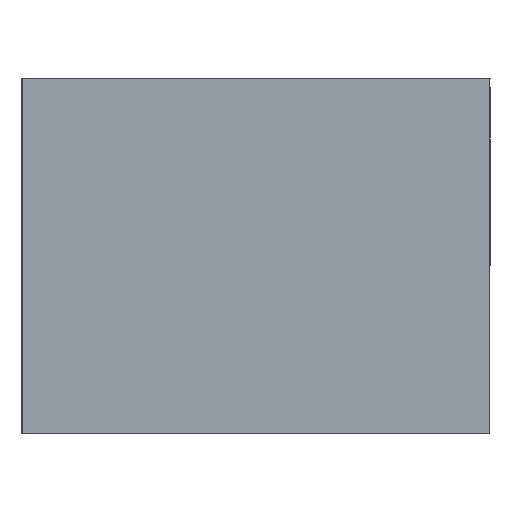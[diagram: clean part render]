
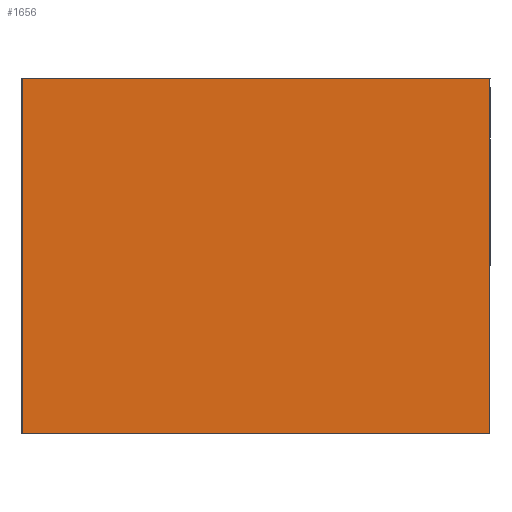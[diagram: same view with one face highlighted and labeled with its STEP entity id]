
A CAD part, front view. The second image highlights one B-rep face of the part: STEP entity #1656.
In plain terms, the highlighted planar face has unit normal (0, -1, 0).
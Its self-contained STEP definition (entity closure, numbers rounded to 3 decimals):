
#6 = AXIS2_PLACEMENT_3D ( 'NONE', #1422, #1602, #1596 ) ;
#24 = ORIENTED_EDGE ( 'NONE', *, *, #1533, .F. ) ;
#176 = FACE_OUTER_BOUND ( 'NONE', #1378, .T. ) ;
#193 = VERTEX_POINT ( 'NONE', #293 ) ;
#293 = CARTESIAN_POINT ( 'NONE',  ( -62.5, 0., 47.5 ) ) ;
#306 = ORIENTED_EDGE ( 'NONE', *, *, #1666, .F. ) ;
#609 = VECTOR ( 'NONE', #842, 1000. ) ;
#611 = CARTESIAN_POINT ( 'NONE',  ( 62.5, 0., 47.5 ) ) ;
#669 = CARTESIAN_POINT ( 'NONE',  ( -62.5, 0., 47.5 ) ) ;
#682 = VERTEX_POINT ( 'NONE', #611 ) ;
#735 = ORIENTED_EDGE ( 'NONE', *, *, #1284, .F. ) ;
#749 = CARTESIAN_POINT ( 'NONE',  ( -62.5, 0., -47.5 ) ) ;
#763 = ORIENTED_EDGE ( 'NONE', *, *, #1598, .F. ) ;
#842 = DIRECTION ( 'NONE',  ( 1., 0., 0. ) ) ;
#1091 = LINE ( 'NONE', #669, #609 ) ;
#1097 = LINE ( 'NONE', #1446, #1934 ) ;
#1229 = VERTEX_POINT ( 'NONE', #1312 ) ;
#1258 = CARTESIAN_POINT ( 'NONE',  ( 62.5, 0., -47.5 ) ) ;
#1272 = DIRECTION ( 'NONE',  ( 0., 0., -1. ) ) ;
#1284 = EDGE_CURVE ( 'NONE', #193, #682, #1091, .T. ) ;
#1312 = CARTESIAN_POINT ( 'NONE',  ( 62.5, 0., -47.5 ) ) ;
#1340 = CARTESIAN_POINT ( 'NONE',  ( -62.5, 0., -47.5 ) ) ;
#1343 = DIRECTION ( 'NONE',  ( -1., 0., 0. ) ) ;
#1378 = EDGE_LOOP ( 'NONE', ( #24, #735, #306, #763 ) ) ;
#1418 = VECTOR ( 'NONE', #1272, 1000. ) ;
#1422 = CARTESIAN_POINT ( 'NONE',  ( 0., 0., 0. ) ) ;
#1437 = PLANE ( 'NONE',  #6 ) ;
#1446 = CARTESIAN_POINT ( 'NONE',  ( -62.5, 0., -47.5 ) ) ;
#1449 = DIRECTION ( 'NONE',  ( 0., 0., 1. ) ) ;
#1533 = EDGE_CURVE ( 'NONE', #682, #1229, #1861, .T. ) ;
#1596 = DIRECTION ( 'NONE',  ( 0., 0., 1. ) ) ;
#1598 = EDGE_CURVE ( 'NONE', #1229, #2020, #1756, .T. ) ;
#1602 = DIRECTION ( 'NONE',  ( 0., 1., 0. ) ) ;
#1656 = ADVANCED_FACE ( 'NONE', ( #176 ), #1437, .F. ) ;
#1666 = EDGE_CURVE ( 'NONE', #2020, #193, #1097, .T. ) ;
#1756 = LINE ( 'NONE', #1340, #2113 ) ;
#1861 = LINE ( 'NONE', #1258, #1418 ) ;
#1934 = VECTOR ( 'NONE', #1449, 1000. ) ;
#2020 = VERTEX_POINT ( 'NONE', #749 ) ;
#2113 = VECTOR ( 'NONE', #1343, 1000. ) ;
